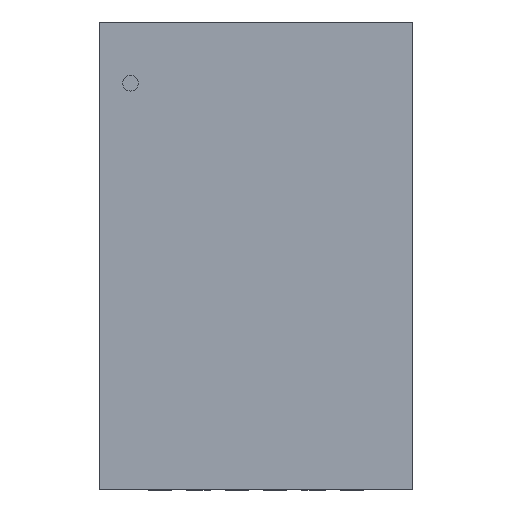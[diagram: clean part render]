
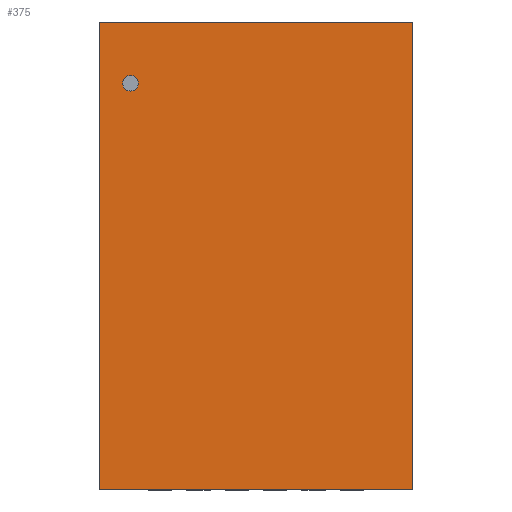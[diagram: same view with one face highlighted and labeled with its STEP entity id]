
A CAD part, top view. The second image highlights one B-rep face of the part: STEP entity #375.
In plain terms, the highlighted planar face has unit normal (0, 0, 1).
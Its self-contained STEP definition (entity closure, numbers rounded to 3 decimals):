
#151=CARTESIAN_POINT('',(2.045,-3.048,0.762));
#150=VERTEX_POINT('',#151);
#161=CARTESIAN_POINT('',(-2.045,-3.048,0.762));
#160=VERTEX_POINT('',#161);
#159=EDGE_CURVE('',#160,#150,#164,.T.);
#164=LINE('',#161,#166);
#166=VECTOR('',#167,4.089);
#167=DIRECTION('',(1.0,0.0,0.0));
#200=CARTESIAN_POINT('',(2.045,3.048,0.762));
#199=VERTEX_POINT('',#200);
#208=EDGE_CURVE('',#150,#199,#213,.T.);
#213=LINE('',#151,#215);
#215=VECTOR('',#216,6.096);
#216=DIRECTION('',(0.0,1.0,0.0));
#249=CARTESIAN_POINT('',(-2.045,3.048,0.762));
#248=VERTEX_POINT('',#249);
#257=EDGE_CURVE('',#199,#248,#262,.T.);
#262=LINE('',#200,#264);
#264=VECTOR('',#265,4.089);
#265=DIRECTION('',(-1.0,0.0,0.0));
#306=EDGE_CURVE('',#248,#160,#311,.T.);
#311=LINE('',#249,#313);
#313=VECTOR('',#314,6.096);
#314=DIRECTION('',(0.0,-1.0,0.0));
#375=ADVANCED_FACE('',(#381),#376,.T.);
#376=PLANE('',#377);
#377=AXIS2_PLACEMENT_3D('',#378,#379,#380);
#378=CARTESIAN_POINT('',(-2.045,-3.048,0.762));
#379=DIRECTION('',(0.0,0.0,1.0));
#380=DIRECTION('',(0.,1.,0.));
#381=FACE_OUTER_BOUND('',#382,.T.);
#382=EDGE_LOOP('',(#383,#393,#403,#413));
#383=ORIENTED_EDGE('',*,*,#159,.T.);
#393=ORIENTED_EDGE('',*,*,#208,.T.);
#403=ORIENTED_EDGE('',*,*,#257,.T.);
#413=ORIENTED_EDGE('',*,*,#306,.T.);
